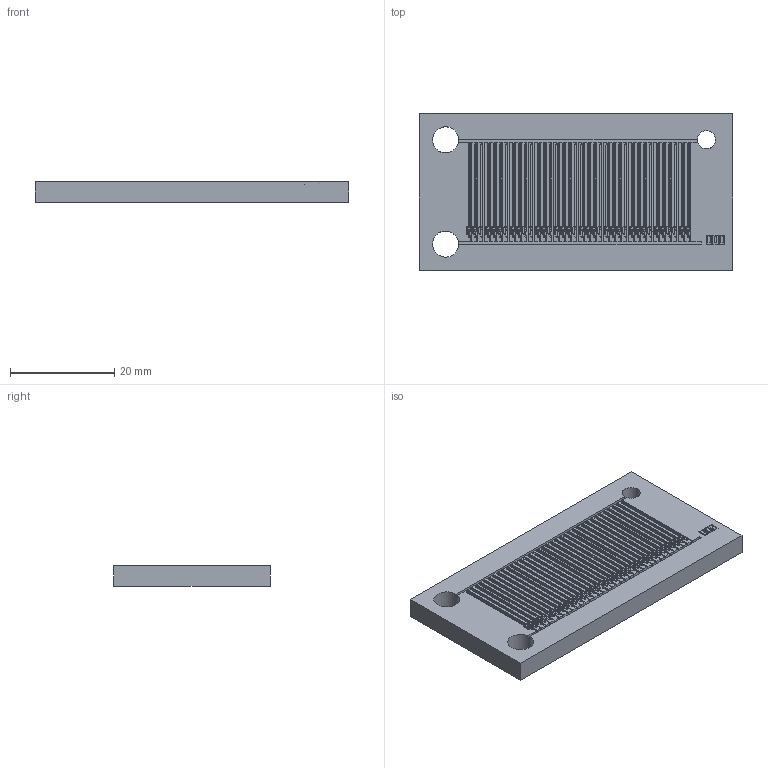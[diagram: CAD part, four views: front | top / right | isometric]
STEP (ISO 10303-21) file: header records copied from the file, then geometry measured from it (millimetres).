
FILE_DESCRIPTION(/* description */ (''),/* implementation_level */ '2;1');
FILE_NAME(/* name */ 'C:/Users/rcm82/Dropbox/2020/A. Post-Doc/7. Publication/A. Menges et al. LoC/2. Supplementary materials/C. CAD files/000 - 250 micron chip/000 250mic trigger Off valve screening_backup v1.step',/* time_stamp */ '2020-08-03T10:33:50+12:00',/* author */ (''),/* organization */ (''),/* preprocessor_version */ 'ST-DEVELOPER v18.1',/* originating_system */ 'Autodesk Translation Framework v9.3.0.1241',/* authorisation */ '');
FILE_SCHEMA (('AUTOMOTIVE_DESIGN { 1 0 10303 214 3 1 1 }'));
Length unit declared in the file: millimetre
Products named in the file (1): 000 250mic trigger Off valve screening_backup
Bounding box: 60 x 30 x 4 mm (x, y, z)
Volume: 6928.6 mm3; surface area: 4889.5 mm2
Topology: 1 solids, 1 shells, 1347 faces, 3944 edges, 2603 vertices
Faces by surface type: plane 948, cylinder 399
Full cylindrical faces by diameter (mm): 3.5 x1, 5 x2
Entity records: 44461 total; most frequent: CARTESIAN_POINT 7895, ORIENTED_EDGE 7888, DIRECTION 7443, EDGE_CURVE 3944, LINE 3141, VECTOR 3141, VERTEX_POINT 2603, AXIS2_PLACEMENT_3D 2151
